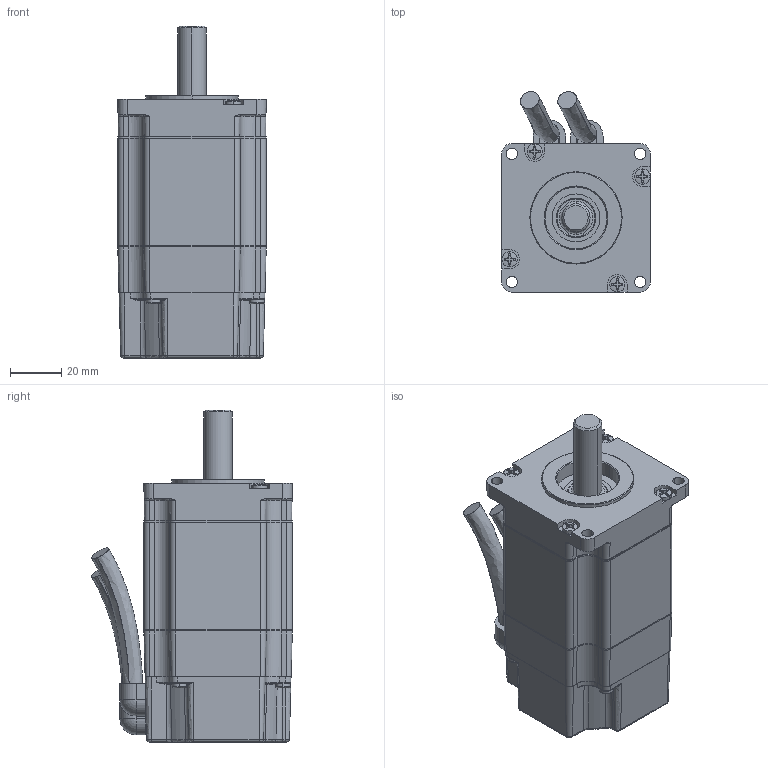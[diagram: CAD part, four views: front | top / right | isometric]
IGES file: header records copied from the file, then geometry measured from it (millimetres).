
Start section:  PTC IGES file: vlm21e.igs
Global section: file name: vlm21e.igs; native system: Pro/ENGINEER by Parametric Technology Corporation; preprocessor: 2006510; author: Ray.Dobbins; organization: Unknown; date: 20110715.135335; units: inch
Bounding box: 57.91 x 78.26 x 129.47 mm (x, y, z)
Surface area: 107298 mm2 (no closed solid volume)
Topology: 0 solids, 0 shells, 1817 faces, 9613 edges, 9603 vertices
Faces by surface type: revolution 1055, bspline 762
